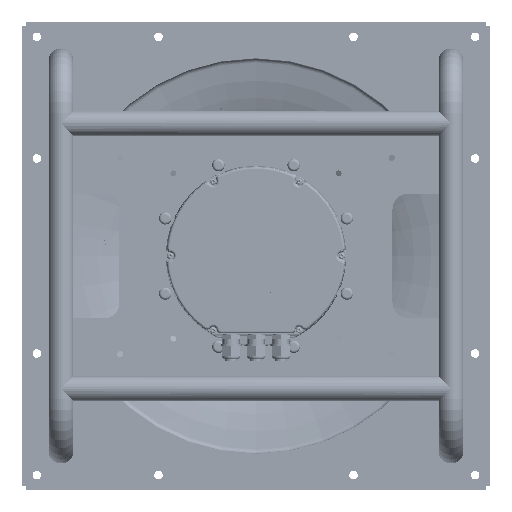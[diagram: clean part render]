
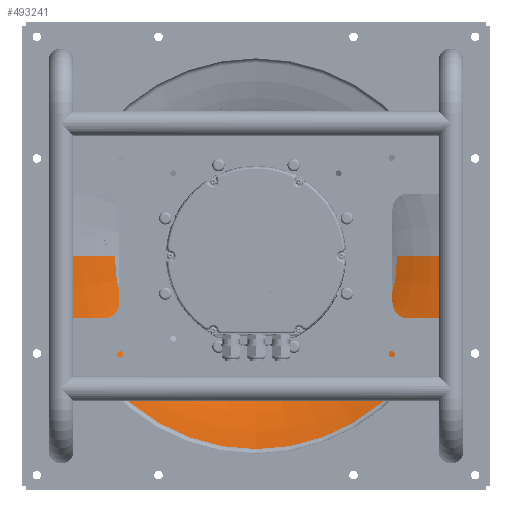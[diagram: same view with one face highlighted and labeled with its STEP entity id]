
A CAD part, front view. The second image highlights one B-rep face of the part: STEP entity #493241.
In plain terms, the highlighted toroidal (fillet/blend) face has major radius 293.005 mm and minor radius 292.12 mm.
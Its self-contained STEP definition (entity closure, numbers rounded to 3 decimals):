
#491415=CARTESIAN_POINT('',(-293.005,0.,311.806));
#491416=DIRECTION('',(0.,-1.,0.));
#491417=DIRECTION('',(0.155,0.,-0.988));
#491418=AXIS2_PLACEMENT_3D('',#491415,#491416,#491417);
#491435=CARTESIAN_POINT('',(0.,0.,23.238));
#491436=DIRECTION('',(0.,0.,-1.));
#491437=DIRECTION('',(1.,0.,0.));
#491438=AXIS2_PLACEMENT_3D('',#491435,#491436,#491437);
#491445=CARTESIAN_POINT('',(293.005,0.,
311.806));
#491446=DIRECTION('',(0.,1.,0.));
#491447=DIRECTION('',(-0.155,0.,-0.988));
#491448=AXIS2_PLACEMENT_3D('',#491445,#491446,#491447);
#491450=CARTESIAN_POINT('',(0.,0.,41.934));
#491451=DIRECTION('',(0.,0.,-1.));
#491452=DIRECTION('',(1.,0.,0.));
#491453=AXIS2_PLACEMENT_3D('',#491450,#491451,#491452);
#492217=CARTESIAN_POINT('',(-144.515,-122.638,
38.624));
#492218=CARTESIAN_POINT('',(-144.903,-122.77,
38.479));
#492219=CARTESIAN_POINT('',(-145.681,-123.034,
38.191));
#492220=CARTESIAN_POINT('',(-146.848,-123.432,
37.765));
#492221=CARTESIAN_POINT('',(-147.627,-123.697,
37.483));
#492222=CARTESIAN_POINT('',(-148.017,-123.83,
37.343));
#492239=CARTESIAN_POINT('',(-142.259,-129.264,
37.625));
#492240=CARTESIAN_POINT('',(-142.509,-128.528,
37.738));
#492241=CARTESIAN_POINT('',(-143.01,-127.056,
37.964));
#492242=CARTESIAN_POINT('',(-143.762,-124.847,
38.297));
#492243=CARTESIAN_POINT('',(-144.264,-123.374,
38.516));
#492244=CARTESIAN_POINT('',(-144.515,-122.638,
38.624));
#492257=CARTESIAN_POINT('',(-145.761,-130.456,
36.399));
#492258=CARTESIAN_POINT('',(-145.371,-130.324,
36.533));
#492259=CARTESIAN_POINT('',(-144.592,-130.058,
36.802));
#492260=CARTESIAN_POINT('',(-143.424,-129.661,
37.211));
#492261=CARTESIAN_POINT('',(-142.647,-129.396,
37.486));
#492262=CARTESIAN_POINT('',(-142.259,-129.264,
37.625));
#492271=CARTESIAN_POINT('',(-148.017,-123.83,
37.343));
#492272=CARTESIAN_POINT('',(-147.766,-124.567,
37.241));
#492273=CARTESIAN_POINT('',(-147.265,-126.04,
37.035));
#492274=CARTESIAN_POINT('',(-146.513,-128.248,
36.72));
#492275=CARTESIAN_POINT('',(-146.011,-129.72,
36.506));
#492276=CARTESIAN_POINT('',(-145.761,-130.456,
36.399));
#492289=CARTESIAN_POINT('',(71.978,-175.339,
38.624));
#492290=CARTESIAN_POINT('',(71.983,-175.749,
38.479));
#492291=CARTESIAN_POINT('',(71.995,-176.57,
38.191));
#492292=CARTESIAN_POINT('',(72.012,-177.803,
37.765));
#492293=CARTESIAN_POINT('',(72.024,-178.626,
37.483));
#492294=CARTESIAN_POINT('',(72.03,-179.038,
37.343));
#492311=CARTESIAN_POINT('',(78.977,-175.241,
37.625));
#492312=CARTESIAN_POINT('',(78.2,-175.252,
37.738));
#492313=CARTESIAN_POINT('',(76.645,-175.273,
37.964));
#492314=CARTESIAN_POINT('',(74.312,-175.306,
38.297));
#492315=CARTESIAN_POINT('',(72.756,-175.328,
38.516));
#492316=CARTESIAN_POINT('',(71.978,-175.339,
38.624));
#492329=CARTESIAN_POINT('',(79.029,-178.94,
36.399));
#492330=CARTESIAN_POINT('',(79.023,-178.528,
36.533));
#492331=CARTESIAN_POINT('',(79.012,-177.705,
36.802));
#492332=CARTESIAN_POINT('',(78.994,-176.472,
37.211));
#492333=CARTESIAN_POINT('',(78.983,-175.651,
37.486));
#492334=CARTESIAN_POINT('',(78.977,-175.241,
37.625));
#492343=CARTESIAN_POINT('',(72.03,-179.038,
37.343));
#492344=CARTESIAN_POINT('',(72.808,-179.027,
37.241));
#492345=CARTESIAN_POINT('',(74.364,-179.005,
37.035));
#492346=CARTESIAN_POINT('',(76.697,-178.973,
36.72));
#492347=CARTESIAN_POINT('',(78.252,-178.951,
36.506));
#492348=CARTESIAN_POINT('',(79.029,-178.94,
36.399));
#492682=CARTESIAN_POINT('',(-247.588,0.,23.238));
#492683=CARTESIAN_POINT('',(247.588,0.,
23.238));
#492684=VERTEX_POINT('',#492682);
#492685=VERTEX_POINT('',#492683);
#492686=CARTESIAN_POINT('',(-181.187,0.,41.934));
#492687=VERTEX_POINT('',#492686);
#492688=CARTESIAN_POINT('',(181.187,0.,
41.934));
#492689=VERTEX_POINT('',#492688);
#492702=VERTEX_POINT('',#492217);
#492703=VERTEX_POINT('',#492222);
#492704=VERTEX_POINT('',#492239);
#492705=VERTEX_POINT('',#492257);
#492706=VERTEX_POINT('',#492289);
#492707=VERTEX_POINT('',#492294);
#492708=VERTEX_POINT('',#492311);
#492709=VERTEX_POINT('',#492329);
#493209=CARTESIAN_POINT('',(0.,0.,311.806));
#493210=DIRECTION('',(0.,0.,-1.));
#493211=DIRECTION('',(-1.,0.,0.));
#493212=AXIS2_PLACEMENT_3D('',#493209,#493210,#493211);
#493213=TOROIDAL_SURFACE('',#493212,293.005,292.12);
#493214=ORIENTED_EDGE('',*,*,#493200,.F.);
#493215=ORIENTED_EDGE('',*,*,#493149,.T.);
#493217=ORIENTED_EDGE('',*,*,#493216,.T.);
#493218=ORIENTED_EDGE('',*,*,#493145,.F.);
#493219=EDGE_LOOP('',(#493214,#493215,#493217,#493218));
#493220=FACE_OUTER_BOUND('',#493219,.F.);
#493222=ORIENTED_EDGE('',*,*,#493221,.F.);
#493224=ORIENTED_EDGE('',*,*,#493223,.F.);
#493226=ORIENTED_EDGE('',*,*,#493225,.F.);
#493228=ORIENTED_EDGE('',*,*,#493227,.F.);
#493229=EDGE_LOOP('',(#493222,#493224,#493226,#493228));
#493230=FACE_BOUND('',#493229,.F.);
#493232=ORIENTED_EDGE('',*,*,#493231,.F.);
#493234=ORIENTED_EDGE('',*,*,#493233,.F.);
#493236=ORIENTED_EDGE('',*,*,#493235,.F.);
#493238=ORIENTED_EDGE('',*,*,#493237,.F.);
#493239=EDGE_LOOP('',(#493232,#493234,#493236,#493238));
#493240=FACE_BOUND('',#493239,.F.);
#493241=ADVANCED_FACE('',(#493220,#493230,#493240),#493213,.T.);
#491419=CIRCLE('',#491418,292.12);
#491439=CIRCLE('',#491438,247.588);
#491449=CIRCLE('',#491448,292.12);
#491454=CIRCLE('',#491453,181.187);
#492223=B_SPLINE_CURVE_WITH_KNOTS('',3,(#492217,#492218,#492219,#492220,#492221,
#492222),.UNSPECIFIED.,.F.,.F.,(4,1,1,4),(0.,0.333,
0.667,1.),.UNSPECIFIED.);
#492245=B_SPLINE_CURVE_WITH_KNOTS('',3,(#492239,#492240,#492241,#492242,#492243,
#492244),.UNSPECIFIED.,.F.,.F.,(4,1,1,4),(0.,0.333,
0.667,1.),.UNSPECIFIED.);
#492263=B_SPLINE_CURVE_WITH_KNOTS('',3,(#492257,#492258,#492259,#492260,#492261,
#492262),.UNSPECIFIED.,.F.,.F.,(4,1,1,4),(0.,0.333,
0.667,1.),.UNSPECIFIED.);
#492277=B_SPLINE_CURVE_WITH_KNOTS('',3,(#492271,#492272,#492273,#492274,#492275,
#492276),.UNSPECIFIED.,.F.,.F.,(4,1,1,4),(0.,0.333,
0.667,1.),.UNSPECIFIED.);
#492295=B_SPLINE_CURVE_WITH_KNOTS('',3,(#492289,#492290,#492291,#492292,#492293,
#492294),.UNSPECIFIED.,.F.,.F.,(4,1,1,4),(0.,0.333,
0.667,1.),.UNSPECIFIED.);
#492317=B_SPLINE_CURVE_WITH_KNOTS('',3,(#492311,#492312,#492313,#492314,#492315,
#492316),.UNSPECIFIED.,.F.,.F.,(4,1,1,4),(0.,0.333,
0.667,1.),.UNSPECIFIED.);
#492335=B_SPLINE_CURVE_WITH_KNOTS('',3,(#492329,#492330,#492331,#492332,#492333,
#492334),.UNSPECIFIED.,.F.,.F.,(4,1,1,4),(0.,0.333,
0.667,1.),.UNSPECIFIED.);
#492349=B_SPLINE_CURVE_WITH_KNOTS('',3,(#492343,#492344,#492345,#492346,#492347,
#492348),.UNSPECIFIED.,.F.,.F.,(4,1,1,4),(0.,0.333,
0.667,1.),.UNSPECIFIED.);
#493145=EDGE_CURVE('',#492684,#492687,#491419,.T.);
#493149=EDGE_CURVE('',#492685,#492689,#491449,.T.);
#493200=EDGE_CURVE('',#492685,#492684,#491439,.T.);
#493216=EDGE_CURVE('',#492689,#492687,#491454,.T.);
#493221=EDGE_CURVE('',#492702,#492703,#492223,.T.);
#493223=EDGE_CURVE('',#492704,#492702,#492245,.T.);
#493225=EDGE_CURVE('',#492705,#492704,#492263,.T.);
#493227=EDGE_CURVE('',#492703,#492705,#492277,.T.);
#493231=EDGE_CURVE('',#492706,#492707,#492295,.T.);
#493233=EDGE_CURVE('',#492708,#492706,#492317,.T.);
#493235=EDGE_CURVE('',#492709,#492708,#492335,.T.);
#493237=EDGE_CURVE('',#492707,#492709,#492349,.T.);
